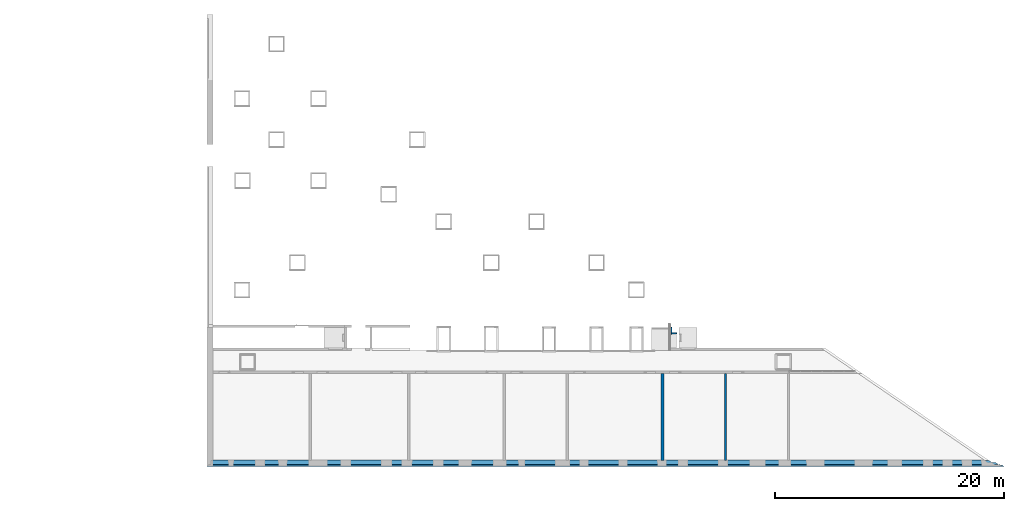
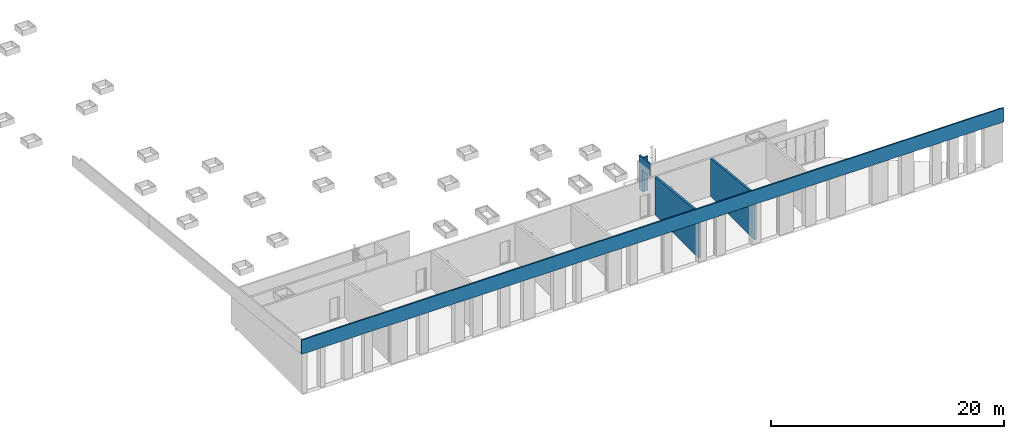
# One storey, part 8 of 23: 5 walls, 1 opening.
"""IFC2X3 building model written with IfcOpenShell, lengths in millimetres."""

from ifc_helpers import new_model, entity, si_unit, converted_unit, derived_unit, money_unit, direction, frame, origin_with_axes, place, context, subcontext, project, spatial, faceted_brep, material, material_list, type_object, element, save


model = new_model("IFC2X3")

# Units and contexts
model_context = context("Model", 3, precision=0.01, world=origin_with_axes(), true_north=direction((0.0, 1.0)))
body_context = subcontext(model_context, "Body", "Model", "MODEL_VIEW")
ifc_project = project(units=[si_unit("LENGTHUNIT", "METRE", prefix="MILLI"), si_unit("AREAUNIT", "SQUARE_METRE"), si_unit("VOLUMEUNIT", "CUBIC_METRE"), converted_unit("PLANEANGLEUNIT", "DEGREE", entity("IfcPlaneAngleMeasure", 0.0174532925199), si_unit("PLANEANGLEUNIT", "RADIAN"), dimensions=[0, 0, 0, 0, 0, 0, 0]), si_unit("SOLIDANGLEUNIT", "STERADIAN"), money_unit("EUR"), converted_unit("TIMEUNIT", "Year", entity("IfcTimeMeasure", 31556926.0), si_unit("TIMEUNIT", "SECOND"), dimensions=[0, 0, 1, 0, 0, 0, 0]), si_unit("MASSUNIT", "GRAM", prefix="KILO"), si_unit("THERMODYNAMICTEMPERATUREUNIT", "DEGREE_CELSIUS"), si_unit("LUMINOUSINTENSITYUNIT", "LUMEN"), si_unit("ENERGYUNIT", "JOULE", prefix="MEGA"), derived_unit("THERMALCONDUCTANCEUNIT", [(si_unit("POWERUNIT", "WATT"), 1), (si_unit("LENGTHUNIT", "METRE"), -1), (si_unit("THERMODYNAMICTEMPERATUREUNIT", "KELVIN"), -1)]), derived_unit("SPECIFICHEATCAPACITYUNIT", [(si_unit("ENERGYUNIT", "JOULE"), 1), (si_unit("MASSUNIT", "GRAM", prefix="KILO"), -1), (si_unit("THERMODYNAMICTEMPERATUREUNIT", "KELVIN"), -1)]), derived_unit("MASSDENSITYUNIT", [(si_unit("MASSUNIT", "GRAM", prefix="KILO"), 1), (si_unit("VOLUMEUNIT", "CUBIC_METRE"), -1)])], contexts=[model_context])

# Site, building, storey
site_placement = place(None, origin_with_axes())
site = spatial("IfcSite", under=ifc_project, at=site_placement, Name="L.Koidula tn 11b", CompositionType="ELEMENT")
building_placement = place(site_placement, origin_with_axes())
building = spatial("IfcBuilding", under=site, at=building_placement, Name="Rakvere Riigigümnaasium", CompositionType="ELEMENT")
storey_placement = place(building_placement, frame((0.0, 0.0, 7440.0), z_axis=(0.0, 0.0, 1.0), x_axis=(1.0, 0.0, 0.0)))
storey = spatial("IfcBuildingStorey", under=building, at=storey_placement, Name="3.korrus +7,44", CompositionType="ELEMENT", Elevation=7440.0)

# Wall, opening
ifc_material_1 = material(Name="Kipsplaat")
ifc_material_2 = material(Name="mineraalvill+karkass")
ifc_material_list_1 = material_list([ifc_material_1, ifc_material_1, ifc_material_2, ifc_material_1, ifc_material_1])
wall_type_1 = type_object("IfcWallType", Name="SS-07 155", PredefinedType="NOTDEFINED")
wall_1_placement = place(storey_placement, frame((75429.9821418, 15300.4785248, 0.0), z_axis=(0.0, 0.0, 1.0), x_axis=(0.0, 1.0, 0.0)))
wall_1 = element("IfcWall", 1, at=wall_1_placement, inside=storey, type_object=wall_type_1, material=ifc_material_list_1, Name="Sisesein", context=body_context, shape_type="Brep", body=[
    faceted_brep([(1809.97698752, -9.45551903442e-06, 3525.83312945), (1809.97698752, -15.0, 3525.83290175), (1809.97698752, -15.0, 0.0), (1809.97698752, -1.7038672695e-06, 0.0), (1809.97698752, -1.97867677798e-06, 125.0), (0.0, -15.0, 3716.06914689), (0.0, 0.0, 3716.06937458), (0.0, -15.0, 2400.0), (1200.0, -15.0, 2400.0), (1200.0, -15.0, 0.0), (1200.0, 0.0, 0.0), (1200.0, 0.0, 2400.0), (0.0, 0.0, 2400.0)], [[[0, 1, 2, 3, 4]], [[5, 1, 0, 6]], [[1, 5, 7, 8, 9, 2]], [[2, 9, 10, 3]], [[6, 0, 4, 3, 10, 11, 12]], [[5, 6, 12, 7]], [[11, 8, 7, 12]], [[10, 9, 8, 11]]]),
    faceted_brep([(1809.97698752, -15.0, 3525.83290175), (1809.97698752, -29.9999966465, 3525.83267406), (1809.97698752, -30.0, 0.0), (1809.97698752, -15.0, 0.0), (0.0, -30.0, 3716.0689192), (0.0, -15.0, 3716.06914689), (0.0, -30.0, 2400.0), (1200.0, -30.0, 2400.0), (1200.0, -30.0, 0.0), (1200.0, -15.0, 0.0), (1200.0, -15.0, 2400.0), (0.0, -15.0, 2400.0)], [[[0, 1, 2, 3]], [[4, 1, 0, 5]], [[1, 4, 6, 7, 8, 2]], [[2, 8, 9, 3]], [[5, 0, 3, 9, 10, 11]], [[4, 5, 11, 6]], [[10, 7, 6, 11]], [[9, 8, 7, 10]]]),
    faceted_brep([(1809.97698752, -29.9999966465, 3525.83267406), (1809.97698752, -125.0, 3525.831232), (1809.97698752, -125.0, 0.0), (1809.97698752, -30.0, 0.0), (0.0, -125.0, 3716.06747714), (0.0, -30.0, 3716.0689192), (0.0, -125.0, 2400.0), (1200.0, -125.0, 2400.0), (1200.0, -125.0, 0.0), (1200.0, -30.0, 0.0), (1200.0, -29.9999955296, 2400.0), (0.0, -30.0, 2400.0)], [[[0, 1, 2, 3]], [[4, 1, 0, 5]], [[1, 4, 6, 7, 8, 2]], [[2, 8, 9, 3]], [[5, 0, 3, 9, 10, 11]], [[4, 5, 11, 6]], [[10, 7, 6, 11]], [[9, 8, 7, 10]]]),
    faceted_brep([(1809.97698752, -125.0, 3525.831232), (1809.97698752, -140.0, 3525.83100431), (1809.97698752, -140.0, 0.0), (1809.97698752, -125.0, 0.0), (0.0, -140.0, 3716.06724945), (0.0, -125.0, 3716.06747714), (0.0, -140.0, 2400.0), (1200.0, -140.0, 2400.0), (1200.0, -140.0, 0.0), (1268.47698752, -140.0, 0.0), (1268.47698752, -140.0, 125.0), (1334.47698752, -140.0, 125.0), (1334.47698752, -140.0, 0.0), (1334.47698752, -125.0, 0.0), (1334.47698752, -125.0, 125.0), (1268.47698752, -125.0, 125.0), (1268.47698752, -125.0, 0.0), (1200.0, -125.0, 0.0), (1200.0, -125.0, 2400.0), (0.0, -125.0, 2400.0)], [[[0, 1, 2, 3]], [[4, 1, 0, 5]], [[1, 4, 6, 7, 8, 9, 10, 11, 12, 2]], [[2, 12, 13, 3]], [[5, 0, 3, 13, 14, 15, 16, 17, 18, 19]], [[4, 5, 19, 6]], [[18, 7, 6, 19]], [[17, 8, 7, 18]], [[9, 8, 17, 16]], [[15, 10, 9, 16]], [[14, 11, 10, 15]], [[13, 12, 11, 14]]]),
    faceted_brep([(1809.97698752, -140.0, 3525.83100431), (1809.97698752, -155.0, 3525.83077662), (1809.97698752, -155.0, 0.0), (1809.97698752, -140.0, 0.0), (0.0, -155.0, 3716.06702175), (0.0, -140.0, 3716.06724945), (0.0, -155.0, 2400.0), (1200.0, -155.0, 2400.0), (1200.0, -155.0, 0.0), (1255.47698752, -155.0, 0.0), (1255.47698752, -155.0, 125.0), (1346.97698752, -155.0, 125.0), (1346.97698752, -155.0, 0.0), (1346.97698752, -140.0, 0.0), (1346.97698752, -140.0, 125.0), (1334.47698752, -140.0, 125.0), (1268.47698752, -140.0, 125.0), (1255.47698752, -140.0, 125.0), (1255.47698752, -140.0, 0.0), (1200.0, -140.0, 0.0), (1200.0, -140.0, 2400.0), (0.0, -140.0, 2400.0)], [[[0, 1, 2, 3]], [[4, 1, 0, 5]], [[1, 4, 6, 7, 8, 9, 10, 11, 12, 2]], [[2, 12, 13, 3]], [[5, 0, 3, 13, 14, 15, 16, 17, 18, 19, 20, 21]], [[4, 5, 21, 6]], [[20, 7, 6, 21]], [[19, 8, 7, 20]], [[9, 8, 19, 18]], [[17, 10, 9, 18]], [[14, 11, 10, 17, 16, 15]], [[13, 12, 11, 14]]]),
])
opening_placement = place(wall_1_placement, frame((600.0, 0.0, 0.0), z_axis=(0.0, 0.0, 1.0), x_axis=(1.0, 0.0, 0.0)))
element("IfcOpeningElement", 2, at=opening_placement, cuts=wall_1, Name="ava", context=body_context, shape_type="Brep", body=[
    faceted_brep([(600.0, 155.0, 0.0), (600.0, 155.0, 2400.0), (600.0, 0.0, 2400.0), (600.0, 0.0, 0.0), (-600.0, 155.0, 0.0), (-600.0, 155.0, 2400.0), (-600.0, 0.0, 2400.0), (-600.0, 0.0, 0.0)], [[[0, 1, 2, 3]], [[0, 4, 5, 1]], [[1, 5, 6, 2]], [[3, 2, 6, 7]], [[4, 0, 3, 7]], [[5, 4, 7, 6]]]),
    faceted_brep([(600.0, -155.0, 2400.0), (600.0, -155.0, 0.0), (600.0, 0.0, 0.0), (600.0, 0.0, 2400.0), (-600.0, -155.0, 2400.0), (-600.0, -155.0, 0.0), (-600.0, 0.0, 0.0), (-600.0, 0.0, 2400.0)], [[[0, 1, 2, 3]], [[0, 4, 5, 1]], [[1, 5, 6, 2]], [[3, 2, 6, 7]], [[4, 0, 3, 7]], [[5, 4, 7, 6]]]),
])

# Walls
ifc_material_3 = material(Name="siseviimistlus-seinad")
ifc_material_4 = material(Name="Betoon element / plaat")
ifc_material_list_2 = material_list([ifc_material_3, ifc_material_4, ifc_material_3])
wall_type_2 = type_object("IfcWallType", Name="SS-01-2 220", PredefinedType="NOTDEFINED")
wall_2_placement = place(storey_placement, frame((74860.015089, 5500.45553887, 0.0), z_axis=(0.0, 0.0, 1.0), x_axis=(0.0, 1.0, 0.0)))
element("IfcWall", 3, at=wall_2_placement, inside=storey, type_object=wall_type_2, material=ifc_material_list_2, Name="Sisesein", context=body_context, shape_type="Brep", body=[
    faceted_brep([(7569.99883287, 210.0, 3950.46619492), (7569.99883287, 200.0, 3950.46604313), (7569.99883287, 200.0, 0.0), (7569.99883287, 210.0, 0.0), (438.659521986, 200.000002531, 4700.0), (438.660966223, 209.999998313, 4700.0), (0.0, 200.000002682, 4700.0), (0.0, 200.0, 0.0), (0.0, 210.0, 0.0), (0.0, 209.999998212, 4160.0), (0.0, 209.999998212, 4700.0)], [[[0, 1, 2, 3]], [[4, 1, 0, 5]], [[1, 4, 6, 7, 2]], [[2, 7, 8, 3]], [[5, 0, 3, 8, 9, 10]], [[4, 5, 10, 6]], [[10, 9, 8, 7, 6]]]),
    faceted_brep([(7579.99883287, 200.0, 3949.41500078), (7579.99883287, 0.0, 3949.41196487), (7579.99883287, 0.0, 0.0), (7579.99883287, 200.0, 0.0), (438.63063722, 3.37465166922e-06, 4700.0), (438.659521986, 200.000002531, 4700.0), (0.0, 3.57627527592e-06, 4700.0), (0.0, 0.0, 0.0), (0.0, 200.0, 0.0), (0.0, 200.000002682, 4700.0)], [[[0, 1, 2, 3]], [[4, 1, 0, 5]], [[1, 4, 6, 7, 2]], [[2, 7, 8, 3]], [[5, 0, 3, 8, 9]], [[4, 5, 9, 6]], [[9, 8, 7, 6]]]),
    faceted_brep([(7569.99883287, 0.0, 3950.46300721), (7569.99883287, -10.0, 3950.46285542), (7569.99883287, -10.0, 0.0), (7569.99883287, 0.0, 0.0), (438.629192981, -10.0, 4700.0), (438.63063722, 3.37465166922e-06, 4700.0), (0.0, -10.0, 4700.0), (0.0, -10.0, 4160.0), (0.0, -10.0, 0.0), (0.0, 0.0, 0.0), (0.0, 3.57627527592e-06, 4700.0)], [[[0, 1, 2, 3]], [[4, 1, 0, 5]], [[1, 4, 6, 7, 8, 2]], [[2, 8, 9, 3]], [[5, 0, 3, 9, 10]], [[4, 5, 10, 6]], [[10, 9, 8, 7, 6]]]),
])
wall_type_3 = type_object("IfcWallType", Name="SS-08 118", PredefinedType="NOTDEFINED")
wall_3_placement = place(storey_placement, frame((75989.9821418, 16660.4555123, 0.0), z_axis=(0.0, 0.0, 1.0), x_axis=(-1.0, 0.0, 0.0)))
element("IfcWall", 4, at=wall_3_placement, inside=storey, type_object=wall_type_3, material=ifc_material_list_1, Name="Sisesein", context=body_context, shape_type="Brep", body=[
    faceted_brep([(442.5, 104.5, 3584.1116437), (0.0, 104.5, 3584.10492674), (0.0, 104.5, 0.0), (442.5, 104.5, 0.0), (0.0021625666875, 117.49999419, 3585.47128121), (442.5, 117.5, 3585.47799874), (0.0, 117.5, 0.0), (442.5, 117.5, 0.0)], [[[0, 1, 2, 3]], [[4, 1, 0, 5]], [[1, 4, 6, 2]], [[7, 3, 2, 6]], [[5, 0, 3, 7]], [[4, 5, 7, 6]]]),
    faceted_brep([(442.5, 91.5, 3582.74528865), (0.0, 91.5000027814, 3582.73857199), (0.0, 91.5, 0.0), (442.5, 91.5, 0.0), (0.0, 104.5, 3584.10492674), (442.5, 104.5, 3584.1116437), (0.0, 104.5, 0.0), (442.5, 104.5, 0.0)], [[[0, 1, 2, 3]], [[4, 1, 0, 5]], [[1, 4, 6, 2]], [[7, 3, 2, 6]], [[5, 0, 3, 7]], [[4, 5, 7, 6]]]),
    faceted_brep([(442.5, 25.5, 3575.8084092), (0.0, 25.5000022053, 3575.80169247), (0.0, 25.5, 0.0), (442.5, 25.5, 0.0), (0.0, 91.5000027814, 3582.73857199), (442.5, 91.5, 3582.74528865), (0.0, 91.5, 0.0), (442.5, 91.5, 0.0)], [[[0, 1, 2, 3]], [[4, 1, 0, 5]], [[1, 4, 6, 2]], [[7, 3, 2, 6]], [[5, 0, 3, 7]], [[4, 5, 7, 6]]]),
    faceted_brep([(442.5, 13.0, 3574.49460627), (0.0, 13.0, 3574.48788932), (0.0, 13.0, 0.0), (442.5, 13.0, 0.0), (0.0, 25.5000022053, 3575.80169247), (442.5, 25.5, 3575.8084092), (0.0, 25.5, 0.0), (442.5, 25.5, 0.0)], [[[0, 1, 2, 3]], [[4, 1, 0, 5]], [[1, 4, 6, 2]], [[7, 3, 2, 6]], [[5, 0, 3, 7]], [[4, 5, 7, 6]]]),
    faceted_brep([(442.5, 0.0, 3573.12825122), (0.00215511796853, 0.0, 3573.1215343), (0.0, 0.0, 0.0), (442.5, 0.0, 0.0), (0.0, 13.0, 3574.48788932), (442.5, 13.0, 3574.49460627), (0.0, 13.0, 0.0), (442.5, 13.0, 0.0)], [[[0, 1, 2, 3]], [[4, 1, 0, 5]], [[1, 4, 6, 2]], [[7, 3, 2, 6]], [[5, 0, 3, 7]], [[4, 5, 7, 6]]]),
])
ifc_material_5 = material(Name="Krohv")
ifc_material_6 = material(Name="Silikaat plokk")
ifc_material_list_3 = material_list([ifc_material_5, ifc_material_6, ifc_material_5])
wall_type_4 = type_object("IfcWallType", Name="SS-04 200", PredefinedType="NOTDEFINED")
wall_4_placement = place(storey_placement, frame((80360.0443135, 5500.45553887, 0.0), z_axis=(0.0, 0.0, 1.0), x_axis=(0.0, 1.0, 0.0)))
element("IfcWall", 5, at=wall_4_placement, inside=storey, type_object=wall_type_4, material=ifc_material_list_3, Name="Sisesein", context=body_context, shape_type="Brep", body=[
    faceted_brep([(7569.99883287, 190.0, 3950.38240333), (7569.99883287, 180.0, 3950.38225153), (7569.99883287, 180.0, 0.0), (7569.99883287, 190.0, 0.0), (437.862298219, 180.000003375, 4700.0), (437.863742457, 189.999999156, 4700.0), (0.0, 180.000003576, 4700.0), (0.0, 180.000003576, 4160.0), (10.0, 180.0, 4160.0), (10.0, 180.0, 0.0), (10.0, 190.0, 0.0), (10.0, 190.0, 4160.0), (0.0, 189.999999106, 4160.0), (0.0, 189.999999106, 4700.0)], [[[0, 1, 2, 3]], [[4, 1, 0, 5]], [[1, 4, 6, 7, 8, 9, 2]], [[2, 9, 10, 3]], [[5, 0, 3, 10, 11, 12, 13]], [[4, 5, 13, 6]], [[13, 12, 7, 6]], [[11, 8, 7, 12]], [[10, 9, 8, 11]]]),
    faceted_brep([(7579.99883287, 180.0, 3949.33120919), (7579.99883287, 0.0, 3949.32847687), (7579.99883287, 0.0, 0.0), (7579.99883287, 180.0, 0.0), (437.836301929, 3.37500694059e-06, 4700.0), (437.862298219, 180.000003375, 4700.0), (0.0, 3.57627527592e-06, 4700.0), (0.0, 0.0, 0.0), (0.0, 180.0, 0.0), (0.0, 180.000003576, 4700.0)], [[[0, 1, 2, 3]], [[4, 1, 0, 5]], [[1, 4, 6, 7, 2]], [[2, 7, 8, 3]], [[5, 0, 3, 8, 9]], [[4, 5, 9, 6]], [[9, 8, 7, 6]]]),
    faceted_brep([(7569.99883287, 0.0, 3950.37951921), (7569.99883287, -10.0, 3950.37936742), (7569.99883287, -10.0, 0.0), (7569.99883287, 0.0, 0.0), (437.834857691, -10.0, 4700.0), (437.836301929, 3.37500694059e-06, 4700.0), (0.0, -10.0, 4700.0), (0.0, -10.0, 4160.0), (10.0, -10.0, 4160.0), (10.0, -10.0, 0.0), (10.0, 0.0, 0.0), (10.0, 0.0, 4160.0), (0.0, 3.57627527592e-06, 4160.0), (0.0, 3.57627527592e-06, 4700.0)], [[[0, 1, 2, 3]], [[4, 1, 0, 5]], [[1, 4, 6, 7, 8, 9, 2]], [[2, 9, 10, 3]], [[5, 0, 3, 10, 11, 12, 13]], [[4, 5, 13, 6]], [[13, 12, 7, 6]], [[11, 8, 7, 12]], [[10, 9, 8, 11]]]),
])
ifc_material_7 = material(Name="Betoon-element")
ifc_material_8 = material(Name="FF-PIR soojustus")
ifc_material_9 = material(Name="Tuuletõke (RKL Facade)")
ifc_material_10 = material(Name="Salto-roovitus")
ifc_material_list_4 = material_list([ifc_material_5, ifc_material_7, ifc_material_8, ifc_material_9, ifc_material_10, ifc_material_10, ifc_material_10])
wall_type_5 = type_object("IfcWallType", Name="VS-09 536", PredefinedType="NOTDEFINED")
wall_5_placement = place(storey_placement, frame((35500.0000521, 5500.45553887, 4160.0), z_axis=(0.0, 0.0, 1.0), x_axis=(1.0, 0.0, 0.0)))
element("IfcWall", 6, at=wall_5_placement, inside=storey, type_object=wall_type_5, material=ifc_material_list_4, Name="Välissein", context=body_context, shape_type="Brep", body=[
    faceted_brep([(14403.9825874, 10.0, 585.429716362), (14403.9999479, 10.0, 585.405277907), (15575.999948, 10.0006910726, 585.411853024), (67379.7369111, 10.0, 584.625567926), (67379.7369111, 10.0, 0.0), (0.0, 10.0, 0.0), (0.0, 10.0, 585.648362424), (33.8276319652, 10.0, 585.647848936), (33.999947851, 10.0, 585.405277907), (1205.99994785, 10.0, 585.405277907), (1206.15962231, 10.0, 585.630053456), (1233.84057188, 10.0, 585.629633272), (1233.99994785, 10.0, 585.405277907), (2405.99994785, 10.0, 585.405277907), (2406.14668268, 10.0, 585.611838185), (2433.85351179, 10.0, 585.611417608), (2433.99994785, 10.0, 585.405277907), (3605.99994785, 10.0, 585.405277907), (3606.13374304, 10.0, 585.593622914), (3633.86645171, 10.0, 585.593201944), (3633.99994785, 10.0, 585.405277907), (4805.99994785, 10.0, 585.405277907), (4806.12080341, 10.0, 585.575407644), (4833.87939162, 10.0, 585.57498628), (4833.99994785, 10.0, 585.405277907), (6005.99994785, 10.0, 585.405277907), (6006.10786377, 10.0, 585.557192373), (6033.89233154, 10.0, 585.556770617), (6033.99994785, 10.0, 585.405277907), (7205.99994785, 10.0, 585.405277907), (7206.09492414, 10.0, 585.538977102), (7219.99994785, 10.0, 585.53876603), (7219.99994785, 10.0, 585.405277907), (8375.99994785, 10.0, 585.405277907), (8376.08230799, 10.0, 585.521217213), (8403.91788787, 10.0, 585.520794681), (8403.99994785, 10.0, 585.405277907), (9575.99994785, 10.0, 585.405277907), (9576.06936836, 10.0, 585.503001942), (9603.93082778, 10.0, 585.502579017), (9603.99994785, 10.0, 585.405277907), (10775.9999479, 10.0, 585.405277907), (10776.0564287, 10.0, 585.484786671), (10803.9437677, 10.0, 585.484363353), (10803.9999479, 10.0, 585.405277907), (11975.9999479, 10.0, 585.405277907), (11976.0434891, 10.0, 585.4665714), (12003.9567076, 10.0, 585.466147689), (12003.9999479, 10.0, 585.405277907), (13175.9999479, 10.0, 585.405277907), (13176.0305495, 10.0, 585.448356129), (13203.9696475, 10.0, 585.447932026), (13203.9999479, 10.0, 585.405277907), (14375.9999479, 10.0, 585.405277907), (14376.0176098, 10.0, 585.430140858), (14403.9999479, 0.0, 586.456303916), (14403.9825758, 0.0, 586.480758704), (15575.999948, 0.000692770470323, 586.462895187), (67394.3167833, 0.0, 585.676388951), (67394.3167833, 0.0, 0.0), (0.0, 0.0, 0.0), (0.0, 0.0, 586.699404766), (33.827620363, 0.0, 586.698891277), (33.999947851, 0.0, 586.456303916), (1205.99994785, 0.0, 586.456303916), (1206.15963391, 0.0, 586.681095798), (1233.84056028, 0.0, 586.680675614), (1233.99994785, 0.0, 586.456303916), (2405.99994785, 0.0, 586.456303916), (2406.14669428, 0.0, 586.662880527), (2433.85350019, 0.0, 586.66245995), (2433.99994785, 0.0, 586.456303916), (3605.99994785, 0.0, 586.456303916), (3606.13375464, 0.0, 586.644665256), (3633.8664401, 0.0, 586.644244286), (3633.99994785, 0.0, 586.456303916), (4805.99994785, 0.0, 586.456303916), (4806.12081501, 0.0, 586.626449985), (4833.87938002, 0.0, 586.626028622), (4833.99994785, 0.0, 586.456303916), (6005.99994785, 0.0, 586.456303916), (6006.10787537, 0.0, 586.608234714), (6033.89231993, 0.0, 586.607812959), (6033.99994785, 0.0, 586.456303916), (7205.99994785, 0.0, 586.456303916), (7206.09493574, 0.0, 586.590019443), (7219.99994785, 0.0, 586.589808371), (7219.99994785, 0.0, 586.456303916), (8375.99994785, 0.0, 586.456303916), (8376.08231959, 0.0, 586.572259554), (8403.91787626, 0.0, 586.571837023), (8403.99994785, 0.0, 586.456303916), (9575.99994785, 0.0, 586.456303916), (9576.06937996, 0.0, 586.554044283), (9603.93081618, 0.0, 586.553621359), (9603.99994785, 0.0, 586.456303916), (10775.9999479, 0.0, 586.456303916), (10776.0564403, 0.0, 586.535829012), (10803.9437561, 0.0, 586.535405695), (10803.9999479, 0.0, 586.456303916), (11975.9999479, 0.0, 586.456303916), (11976.0435007, 0.0, 586.517613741), (12003.956696, 0.0, 586.517190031), (12003.9999479, 0.0, 586.456303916), (13175.9999479, 0.0, 586.456303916), (13176.0305611, 0.0, 586.49939847), (13203.9696359, 0.0, 586.498974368), (13203.9999479, 0.0, 586.456303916), (14375.9999479, 0.0, 586.456303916), (14376.0176214, 0.0, 586.481183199)], [[[0, 1, 2, 3, 4, 5, 6, 7, 8, 9, 10, 11, 12, 13, 14, 15, 16, 17, 18, 19, 20, 21, 22, 23, 24, 25, 26, 27, 28, 29, 30, 31, 32, 33, 34, 35, 36, 37, 38, 39, 40, 41, 42, 43, 44, 45, 46, 47, 48, 49, 50, 51, 52, 53, 54]], [[55, 1, 0, 56]], [[1, 55, 57, 2]], [[2, 57, 58, 3]], [[59, 4, 3, 58]], [[59, 60, 5, 4]], [[5, 60, 61, 6]], [[6, 61, 62, 7]], [[63, 8, 7, 62]], [[8, 63, 64, 9]], [[9, 64, 65, 10]], [[10, 65, 66, 11]], [[67, 12, 11, 66]], [[12, 67, 68, 13]], [[13, 68, 69, 14]], [[14, 69, 70, 15]], [[71, 16, 15, 70]], [[16, 71, 72, 17]], [[17, 72, 73, 18]], [[18, 73, 74, 19]], [[75, 20, 19, 74]], [[20, 75, 76, 21]], [[21, 76, 77, 22]], [[22, 77, 78, 23]], [[79, 24, 23, 78]], [[24, 79, 80, 25]], [[25, 80, 81, 26]], [[26, 81, 82, 27]], [[83, 28, 27, 82]], [[28, 83, 84, 29]], [[29, 84, 85, 30]], [[30, 85, 86, 31]], [[87, 32, 31, 86]], [[32, 87, 88, 33]], [[33, 88, 89, 34]], [[34, 89, 90, 35]], [[91, 36, 35, 90]], [[36, 91, 92, 37]], [[37, 92, 93, 38]], [[38, 93, 94, 39]], [[95, 40, 39, 94]], [[40, 95, 96, 41]], [[41, 96, 97, 42]], [[42, 97, 98, 43]], [[99, 44, 43, 98]], [[44, 99, 100, 45]], [[45, 100, 101, 46]], [[46, 101, 102, 47]], [[103, 48, 47, 102]], [[48, 103, 104, 49]], [[49, 104, 105, 50]], [[50, 105, 106, 51]], [[107, 52, 51, 106]], [[52, 107, 108, 53]], [[53, 108, 109, 54]], [[54, 109, 56, 0]], [[60, 59, 58, 57, 55, 56, 109, 108, 107, 106, 105, 104, 103, 102, 101, 100, 99, 98, 97, 96, 95, 94, 93, 92, 91, 90, 89, 88, 87, 86, 85, 84, 83, 82, 81, 80, 79, 78, 77, 76, 75, 74, 73, 72, 71, 70, 69, 68, 67, 66, 65, 64, 63, 62, 61]]]),
    faceted_brep([(68039.5087288, -200.0, 0.0), (67747.9112832, 0.0, 0.0), (67747.9112832, 0.0, 585.671021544), (68039.5087288, -200.0, 606.687442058), (-200.0, -200.0, 0.0), (-200.0, 0.0, 0.0), (-200.0, 0.0, 586.702440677), (-200.0, -200.0, 607.723287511)], [[[0, 1, 2, 3]], [[4, 5, 1, 0]], [[1, 5, 6, 2]], [[2, 6, 7, 3]], [[4, 0, 3, 7]], [[5, 4, 7, 6]]]),
    faceted_brep([(68620.1576091, -379.983627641, 1301.13611173), (68620.1814797, -380.0, 1301.13783254), (68620.1814797, -380.0, 0.0), (68357.7437787, -200.0, 0.0), (68357.7437787, -200.0, 606.682611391), (68620.1576091, -379.983627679, 625.595669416), (-380.0, -380.0, 1301.13783254), (-380.00286081, -379.983627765, 1301.13611175), (-380.0, -380.0, 0.0), (-380.0, -200.0, 0.0), (-380.005199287, -199.999999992, 607.726019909), (-380.0, -379.983628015, 626.643061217), (-380.007478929, -379.983628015, 893.1027554)], [[[0, 1, 2, 3, 4, 5]], [[6, 1, 0, 7]], [[1, 6, 8, 2]], [[9, 3, 2, 8]], [[3, 9, 10, 4]], [[10, 11, 5, 4]], [[7, 0, 5, 11, 12]], [[6, 7, 12, 11, 10, 9, 8]]]),
    faceted_brep([(68676.588949, -398.000625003, 1500.0), (448.016299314, -398.000625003, 1500.0), (448.016299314, -430.0, 1500.0), (68781.4794661, -430.0, 1500.0), (68708.5801047, -380.0, 1500.0), (68650.3441165, -380.0, 1500.0), (68676.588949, -398.000625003, 1303.02977446), (-398.000624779, -398.000625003, 1303.02977446), (-398.000624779, -398.000625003, 1478.60281825), (448.016299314, -398.000625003, 1478.60281825), (448.016299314, -430.0, 1481.96608809), (-430.0, -430.0, 1481.96608809), (-430.0, -430.0, 0.0), (68781.4794661, -430.0, 0.0), (68708.5801047, -380.0, 0.0), (68650.3441165, -380.0, 1301.13783254), (-430.0, -380.0, 0.0), (-430.0, -380.0, 1476.71087632), (-398.000624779, -380.0, 1476.71087632), (-398.000624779, -380.0, 1301.13783254)], [[[0, 1, 2, 3, 4, 5]], [[1, 0, 6, 7, 8, 9]], [[1, 9, 10, 2]], [[2, 10, 11, 12, 13, 3]], [[3, 13, 14, 4]], [[15, 5, 4, 14, 16, 17, 18, 19]], [[0, 5, 15, 6]], [[15, 19, 7, 6]], [[19, 18, 8, 7]], [[8, 18, 17, 11, 10, 9]], [[12, 11, 17, 16]], [[16, 14, 13, 12]]]),
    faceted_brep([(-526.0, -430.0, 1481.96608809), (448.016299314, -430.0, 1481.96608809), (448.016299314, -430.0, 1500.0), (68951.204826, -430.0, 1500.0), (68951.204826, -430.0, 0.0), (-526.0, -430.0, 0.0), (-526.0, -462.0, 1485.32942362), (448.016299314, -462.0, 1485.32942362), (448.016299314, -462.0, 1500.0), (68997.8604173, -462.0, 1500.0), (68997.8604173, -462.0, 0.0), (-526.0, -462.0, 0.0)], [[[0, 1, 2, 3, 4, 5]], [[1, 0, 6, 7]], [[8, 2, 1, 7]], [[2, 8, 9, 3]], [[10, 4, 3, 9]], [[4, 10, 11, 5]], [[6, 0, 5, 11]], [[7, 6, 11, 10, 9, 8]]]),
    faceted_brep([(-526.0, -462.0, 1485.32942362), (448.016299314, -462.0, 1485.32942362), (448.016299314, -462.0, 1500.0), (68997.8604173, -462.0, 1500.0), (68997.8604173, -462.0, 0.0), (-526.0, -462.0, 0.0), (-526.0, -494.0, 1488.69275914), (448.016299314, -494.0, 1488.69275914), (448.016299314, -494.0, 1500.0), (69044.5160086, -494.0, 1500.0), (69044.5160086, -494.0, 0.0), (-526.0, -494.0, 0.0)], [[[0, 1, 2, 3, 4, 5]], [[1, 0, 6, 7]], [[8, 2, 1, 7]], [[2, 8, 9, 3]], [[10, 4, 3, 9]], [[4, 10, 11, 5]], [[6, 0, 5, 11]], [[7, 6, 11, 10, 9, 8]]]),
    faceted_brep([(-526.0, -494.0, 1488.69275914), (448.016299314, -494.0, 1488.69275914), (448.016299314, -494.0, 1500.0), (69044.5160086, -494.0, 1500.0), (69044.5160086, -494.0, 0.0), (-526.0, -494.0, 0.0), (-526.0, -526.0, 1492.05609467), (448.016299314, -526.0, 1492.05609467), (448.016299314, -526.0, 1500.0), (69091.1715999, -526.0, 1500.0), (69091.1715999, -526.0, 0.0), (-526.0, -526.0, 0.0)], [[[0, 1, 2, 3, 4, 5]], [[1, 0, 6, 7]], [[8, 2, 1, 7]], [[2, 8, 9, 3]], [[10, 4, 3, 9]], [[4, 10, 11, 5]], [[6, 0, 5, 11]], [[7, 6, 11, 10, 9, 8]]]),
])

save(model, "model.ifc")
